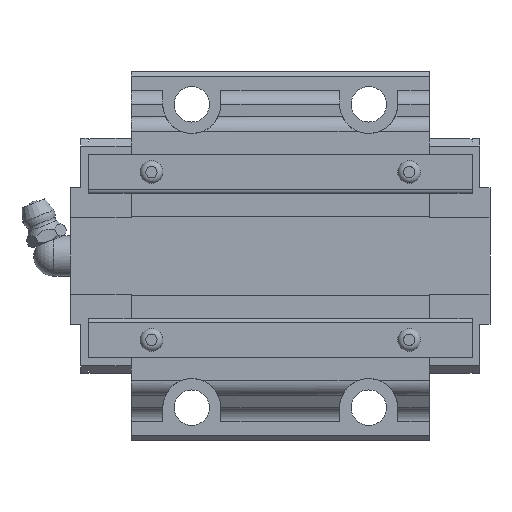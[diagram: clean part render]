
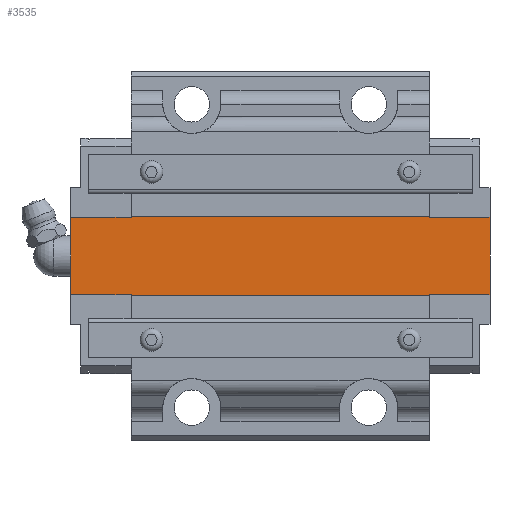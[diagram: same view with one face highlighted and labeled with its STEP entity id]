
A CAD part, front view. The second image highlights one B-rep face of the part: STEP entity #3535.
In plain terms, the highlighted planar face has unit normal (0, -1, 0).
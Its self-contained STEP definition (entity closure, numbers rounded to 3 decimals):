
#352=LINE('',#5892,#708);
#369=LINE('',#5936,#725);
#384=LINE('',#5972,#740);
#385=LINE('',#5974,#741);
#708=VECTOR('',#4679,1000.);
#725=VECTOR('',#4718,1000.);
#740=VECTOR('',#4761,1000.);
#741=VECTOR('',#4764,1000.);
#869=PLANE('',#3852);
#1927=ORIENTED_EDGE('',*,*,#2453,.F.);
#1928=ORIENTED_EDGE('',*,*,#2493,.F.);
#1929=ORIENTED_EDGE('',*,*,#2475,.T.);
#1930=ORIENTED_EDGE('',*,*,#2494,.T.);
#2453=EDGE_CURVE('',#2814,#2815,#352,.T.);
#2475=EDGE_CURVE('',#2831,#2830,#369,.T.);
#2493=EDGE_CURVE('',#2831,#2814,#384,.T.);
#2494=EDGE_CURVE('',#2830,#2815,#385,.T.);
#2814=VERTEX_POINT('',#5891);
#2815=VERTEX_POINT('',#5893);
#2830=VERTEX_POINT('',#5935);
#2831=VERTEX_POINT('',#5937);
#3075=EDGE_LOOP('',(#1927,#1928,#1929,#1930));
#3312=FACE_BOUND('',#3075,.T.);
#3535=ADVANCED_FACE('',(#3312),#869,.T.);
#3852=AXIS2_PLACEMENT_3D('',#5973,#4762,#4763);
#4679=DIRECTION('',(0.,0.,1.));
#4718=DIRECTION('',(0.,0.,1.));
#4761=DIRECTION('',(-1.,0.,0.));
#4762=DIRECTION('',(0.,-1.,0.));
#4763=DIRECTION('',(0.,0.,-1.));
#4764=DIRECTION('',(-1.,0.,0.));
#5891=CARTESIAN_POINT('',(-41.5,11.,-7.721));
#5892=CARTESIAN_POINT('',(-41.5,11.,-7.721));
#5893=CARTESIAN_POINT('',(-41.5,11.,7.721));
#5935=CARTESIAN_POINT('',(41.5,11.,7.721));
#5936=CARTESIAN_POINT('',(41.5,11.,-7.721));
#5937=CARTESIAN_POINT('',(41.5,11.,-7.721));
#5972=CARTESIAN_POINT('',(41.5,11.,-7.721));
#5973=CARTESIAN_POINT('',(41.5,11.,-7.721));
#5974=CARTESIAN_POINT('',(41.5,11.,7.721));
